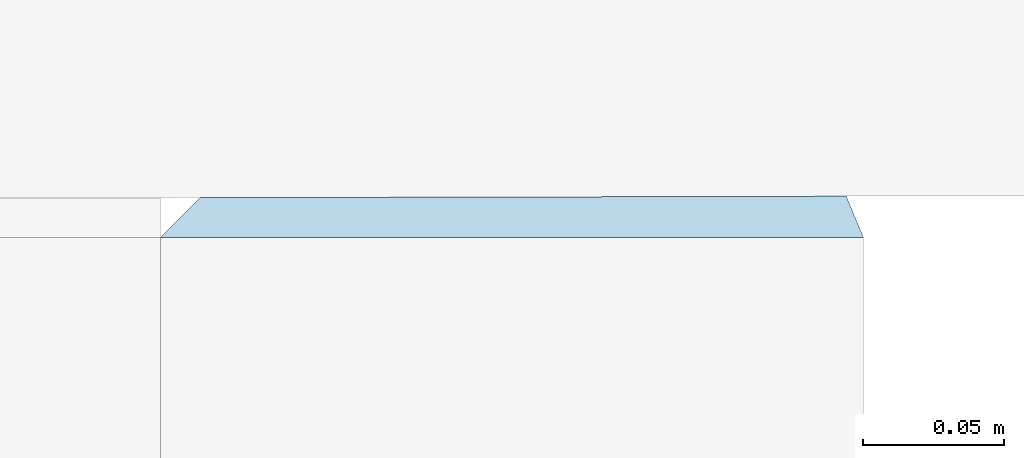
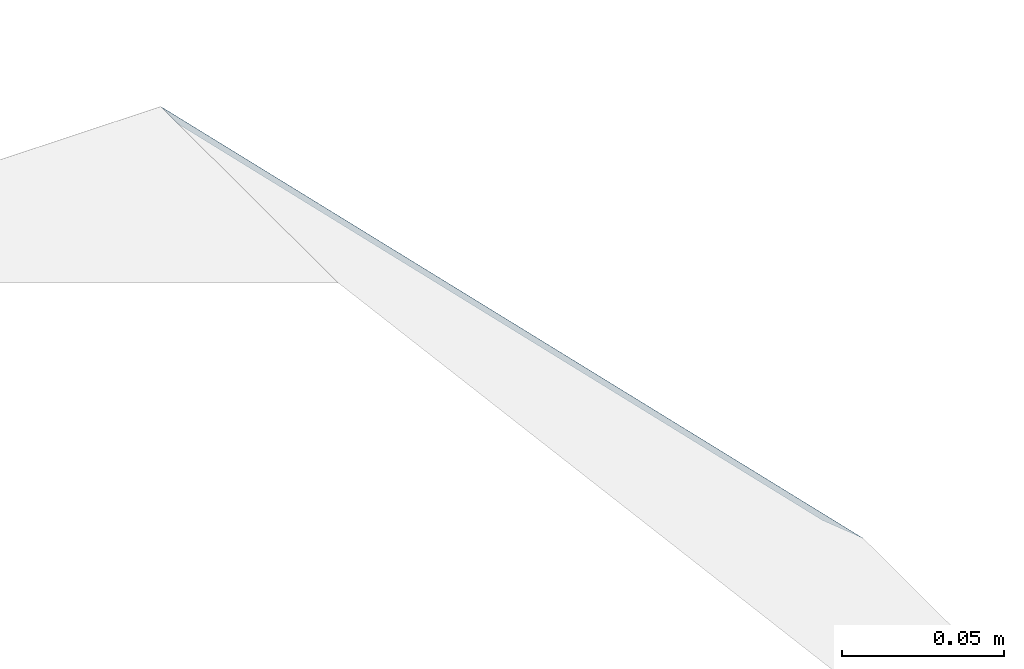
# One storey, part 10 of 14: 1 slab.
"""IFC2X3 building model written with IfcOpenShell, lengths in metres."""

from ifc_helpers import new_model, si_unit, origin, origin_with_axes, place, context, subcontext, project, spatial, faceted_brep, element, save


model = new_model("IFC2X3")

# Units and contexts
context_of_model = context(None, 3, world=origin_with_axes())
sub_context = subcontext(context_of_model, None, None, "MODEL_VIEW")
ifc_project = project(units=[si_unit("LENGTHUNIT", "METRE"), si_unit("AREAUNIT", "SQUARE_METRE"), si_unit("VOLUMEUNIT", "CUBIC_METRE"), si_unit("PLANEANGLEUNIT", "RADIAN"), si_unit("MASSUNIT", "GRAM", prefix="KILO")])

# Site, building, storey
site_placement = place(None, origin_with_axes())
site = spatial("IfcSite", under=ifc_project, at=site_placement, Name="Site.1", CompositionType="ELEMENT")
building_placement = place(site_placement, origin())
building = spatial("IfcBuilding", under=site, at=building_placement, Name="Building.1", CompositionType="ELEMENT")
storey_placement = place(building_placement, origin())
storey = spatial("IfcBuildingStorey", under=building, at=storey_placement, Name="VRD", CompositionType="ELEMENT")

# Slab
slab_placement = place(storey_placement, origin())
element("IfcSlab", 1, at=slab_placement, inside=storey, Name="PJ FINI n°33", PredefinedType="USERDEFINED", context=sub_context, shape_type="Brep", body=[
    faceted_brep([(52.881781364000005, -2.655934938, -1.500000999), (52.895913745, -2.641802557, -1.519987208), (53.131780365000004, -2.655934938, -1.75), (53.125702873, -2.641262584, -1.75)], [[[0, 1, 2]], [[3, 2, 1]]]),
])

save(model, "model.ifc")
